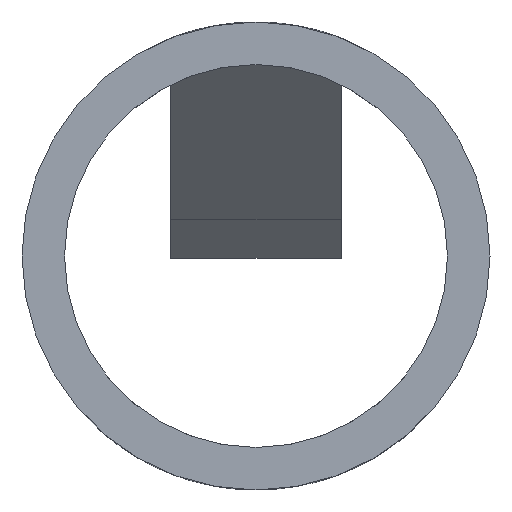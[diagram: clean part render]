
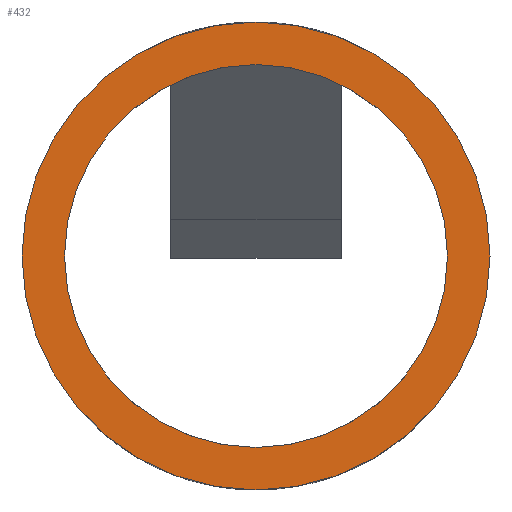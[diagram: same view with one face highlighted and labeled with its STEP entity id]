
A CAD part, front view. The second image highlights one B-rep face of the part: STEP entity #432.
In plain terms, the highlighted planar face has unit normal (0, -1, 0).
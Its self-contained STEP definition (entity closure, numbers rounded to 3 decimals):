
#90 = CIRCLE ( 'NONE', #145, 4.5 ) ;
#93 = CIRCLE ( 'NONE', #162, 5.5 ) ;
#95 = CIRCLE ( 'NONE', #147, 5.5 ) ;
#133 = AXIS2_PLACEMENT_3D ( 'NONE', #608, #607, #606 ) ;
#141 = EDGE_CURVE ( 'NONE', #590, #653, #771, .T. ) ;
#145 = AXIS2_PLACEMENT_3D ( 'NONE', #290, #281, #280 ) ;
#147 = AXIS2_PLACEMENT_3D ( 'NONE', #333, #289, #288 ) ;
#149 = EDGE_CURVE ( 'NONE', #460, #659, #93, .T. ) ;
#162 = AXIS2_PLACEMENT_3D ( 'NONE', #589, #588, #587 ) ;
#185 = AXIS2_PLACEMENT_3D ( 'NONE', #732, #744, #743 ) ;
#207 = EDGE_CURVE ( 'NONE', #659, #460, #95, .T. ) ;
#210 = EDGE_CURVE ( 'NONE', #653, #590, #90, .T. ) ;
#222 = FACE_OUTER_BOUND ( 'NONE', #806, .T. ) ;
#223 = FACE_BOUND ( 'NONE', #811, .T. ) ;
#280 = DIRECTION ( 'NONE',  ( -1., 0., 0. ) ) ;
#281 = DIRECTION ( 'NONE',  ( 0., -1., 0. ) ) ;
#288 = DIRECTION ( 'NONE',  ( -1., 0., 0. ) ) ;
#289 = DIRECTION ( 'NONE',  ( 0., -1., 0. ) ) ;
#290 = CARTESIAN_POINT ( 'NONE',  ( 0., 0., 0. ) ) ;
#333 = CARTESIAN_POINT ( 'NONE',  ( 0., 0., 0. ) ) ;
#432 = ADVANCED_FACE ( 'NONE', ( #222, #223 ), #672, .T. ) ;
#460 = VERTEX_POINT ( 'NONE', #719 ) ;
#587 = DIRECTION ( 'NONE',  ( -1., 0., 0. ) ) ;
#588 = DIRECTION ( 'NONE',  ( 0., -1., 0. ) ) ;
#589 = CARTESIAN_POINT ( 'NONE',  ( 0., 0., 0. ) ) ;
#590 = VERTEX_POINT ( 'NONE', #715 ) ;
#606 = DIRECTION ( 'NONE',  ( -1., 0., 0. ) ) ;
#607 = DIRECTION ( 'NONE',  ( 0., -1., 0. ) ) ;
#608 = CARTESIAN_POINT ( 'NONE',  ( 0., 0., 0. ) ) ;
#653 = VERTEX_POINT ( 'NONE', #691 ) ;
#659 = VERTEX_POINT ( 'NONE', #684 ) ;
#672 = PLANE ( 'NONE',  #185 ) ;
#684 = CARTESIAN_POINT ( 'NONE',  ( -5.5, 0., 0. ) ) ;
#691 = CARTESIAN_POINT ( 'NONE',  ( 4.5, 0., 0. ) ) ;
#715 = CARTESIAN_POINT ( 'NONE',  ( -4.5, 0., 0. ) ) ;
#719 = CARTESIAN_POINT ( 'NONE',  ( 5.5, 0., 0. ) ) ;
#732 = CARTESIAN_POINT ( 'NONE',  ( 0., 0., 0. ) ) ;
#743 = DIRECTION ( 'NONE',  ( -1., 0., 0. ) ) ;
#744 = DIRECTION ( 'NONE',  ( 0., -1., 0. ) ) ;
#771 = CIRCLE ( 'NONE', #133, 4.5 ) ;
#773 = ORIENTED_EDGE ( 'NONE', *, *, #141, .F. ) ;
#801 = ORIENTED_EDGE ( 'NONE', *, *, #149, .T. ) ;
#806 = EDGE_LOOP ( 'NONE', ( #801, #865 ) ) ;
#811 = EDGE_LOOP ( 'NONE', ( #815, #773 ) ) ;
#815 = ORIENTED_EDGE ( 'NONE', *, *, #210, .F. ) ;
#865 = ORIENTED_EDGE ( 'NONE', *, *, #207, .T. ) ;
